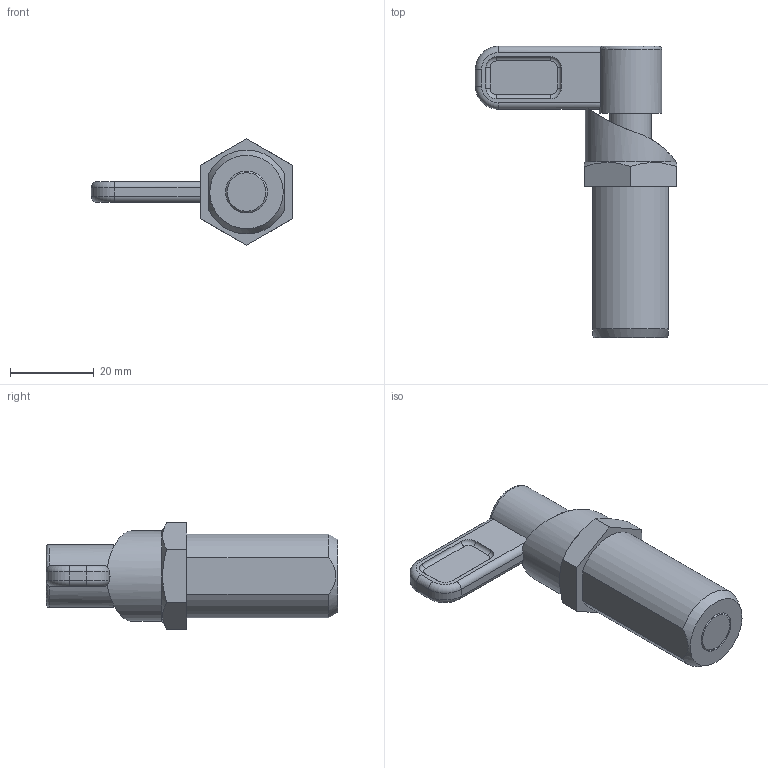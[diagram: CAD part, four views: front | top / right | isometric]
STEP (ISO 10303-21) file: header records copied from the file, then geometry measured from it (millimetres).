
FILE_DESCRIPTION( ( 'STEP AP203' ), '1' );
FILE_NAME( 'C:/Temp/Ganter_Step_05_03_2020/data/3_1/gn_612.8/gn612_8_a/Indexing plunger GN 612.8-10-M20x1,5-A (activated).stp', '2020-03-12T09:12:26', ( 'License CC BY-ND 4.0' ), ( 'CADENAS' ), ' ', 'PARTsolutions', ' ' );
FILE_SCHEMA( ( 'CONFIG_CONTROL_DESIGN' ) );
Length unit declared in the file: millimetre
Products named in the file (3): Indexing plunger GN 612.8-10-M20x1,5-A (activated); _Indexing plunger GN 612.8-10-M20x1,5-A (2)_2; _Rastriegel GN 612.8-10-M20x1,5-A (2)_1
Assembly tree (2 placements, depth 2):
  Indexing plunger GN 612.8-10-M20x1,5-A (activated)
    _Indexing plunger GN 612.8-10-M20x1,5-A (2)_2
    _Rastriegel GN 612.8-10-M20x1,5-A (2)_1
Bounding box: 48 x 69.5 x 25.4 mm (x, y, z)
Volume: 19780.2 mm3; surface area: 9476.3 mm2
Topology: 2 solids, 2 shells, 72 faces, 166 edges, 107 vertices
Faces by surface type: cylinder 31, plane 25, torus 13, cone 3
Full cylindrical faces by diameter (mm): 10 x4, 11 x2, 15 x1, 15.5 x1, 21.5 x1
Entity records: 2441 total; most frequent: CARTESIAN_POINT 737, DIRECTION 350, ORIENTED_EDGE 304, EDGE_CURVE 152, AXIS2_PLACEMENT_3D 148, VERTEX_POINT 104, EDGE_LOOP 94, FACE_OUTER_BOUND 80
